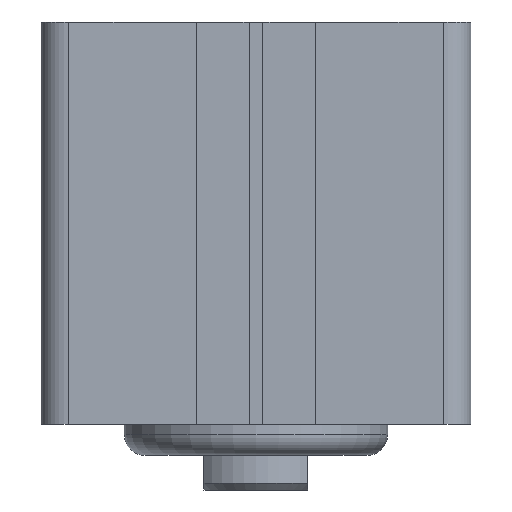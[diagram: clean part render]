
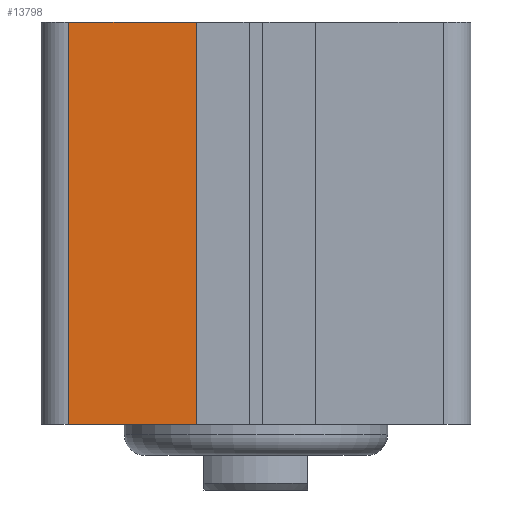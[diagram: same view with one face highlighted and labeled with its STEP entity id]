
A CAD part, front view. The second image highlights one B-rep face of the part: STEP entity #13798.
In plain terms, the highlighted planar face has unit normal (0, -1, 0).
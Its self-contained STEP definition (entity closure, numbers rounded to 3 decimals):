
#596 = PLANE ( 'NONE',  #6870 ) ;
#1141 = CARTESIAN_POINT ( 'NONE',  ( -27., -31., 58. ) ) ;
#1375 = ORIENTED_EDGE ( 'NONE', *, *, #12438, .T. ) ;
#1613 = CARTESIAN_POINT ( 'NONE',  ( -8.6, -31., 0. ) ) ;
#1995 = DIRECTION ( 'NONE',  ( -1., 0., 0. ) ) ;
#2249 = LINE ( 'NONE', #5394, #3121 ) ;
#3121 = VECTOR ( 'NONE', #14011, 1000. ) ;
#3126 = CARTESIAN_POINT ( 'NONE',  ( -8.6, -31., 58. ) ) ;
#3188 = EDGE_CURVE ( 'NONE', #12985, #17294, #3816, .T. ) ;
#3816 = LINE ( 'NONE', #14572, #6044 ) ;
#4214 = CARTESIAN_POINT ( 'NONE',  ( -27., -31., 58. ) ) ;
#4300 = VECTOR ( 'NONE', #9753, 1000. ) ;
#4633 = DIRECTION ( 'NONE',  ( 0., 0., -1. ) ) ;
#5394 = CARTESIAN_POINT ( 'NONE',  ( 0., -31., 0. ) ) ;
#5894 = VERTEX_POINT ( 'NONE', #7278 ) ;
#6044 = VECTOR ( 'NONE', #4633, 1000. ) ;
#6870 = AXIS2_PLACEMENT_3D ( 'NONE', #10280, #16059, #1995 ) ;
#7012 = CARTESIAN_POINT ( 'NONE',  ( 0., -31., 58. ) ) ;
#7278 = CARTESIAN_POINT ( 'NONE',  ( -27., -31., 0. ) ) ;
#7879 = ORIENTED_EDGE ( 'NONE', *, *, #11608, .F. ) ;
#8001 = LINE ( 'NONE', #4214, #15227 ) ;
#8323 = VERTEX_POINT ( 'NONE', #1141 ) ;
#9246 = FACE_OUTER_BOUND ( 'NONE', #11330, .T. ) ;
#9753 = DIRECTION ( 'NONE',  ( 1., 0., 0. ) ) ;
#10280 = CARTESIAN_POINT ( 'NONE',  ( 0., -31., 58. ) ) ;
#10461 = ORIENTED_EDGE ( 'NONE', *, *, #3188, .F. ) ;
#11330 = EDGE_LOOP ( 'NONE', ( #14419, #10461, #7879, #1375 ) ) ;
#11608 = EDGE_CURVE ( 'NONE', #8323, #12985, #16836, .T. ) ;
#12438 = EDGE_CURVE ( 'NONE', #8323, #5894, #8001, .T. ) ;
#12879 = EDGE_CURVE ( 'NONE', #5894, #17294, #2249, .T. ) ;
#12985 = VERTEX_POINT ( 'NONE', #3126 ) ;
#13798 = ADVANCED_FACE ( 'NONE', ( #9246 ), #596, .F. ) ;
#14011 = DIRECTION ( 'NONE',  ( 1., 0., 0. ) ) ;
#14419 = ORIENTED_EDGE ( 'NONE', *, *, #12879, .T. ) ;
#14572 = CARTESIAN_POINT ( 'NONE',  ( -8.6, -31., 58. ) ) ;
#15227 = VECTOR ( 'NONE', #15571, 1000. ) ;
#15571 = DIRECTION ( 'NONE',  ( 0., 0., -1. ) ) ;
#16059 = DIRECTION ( 'NONE',  ( 0., 1., 0. ) ) ;
#16836 = LINE ( 'NONE', #7012, #4300 ) ;
#17294 = VERTEX_POINT ( 'NONE', #1613 ) ;
